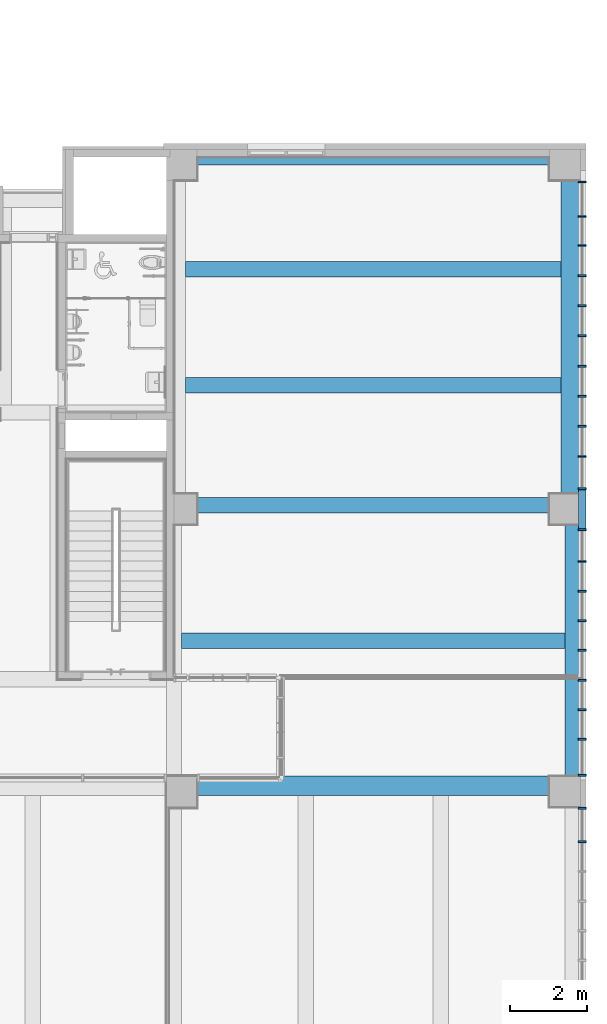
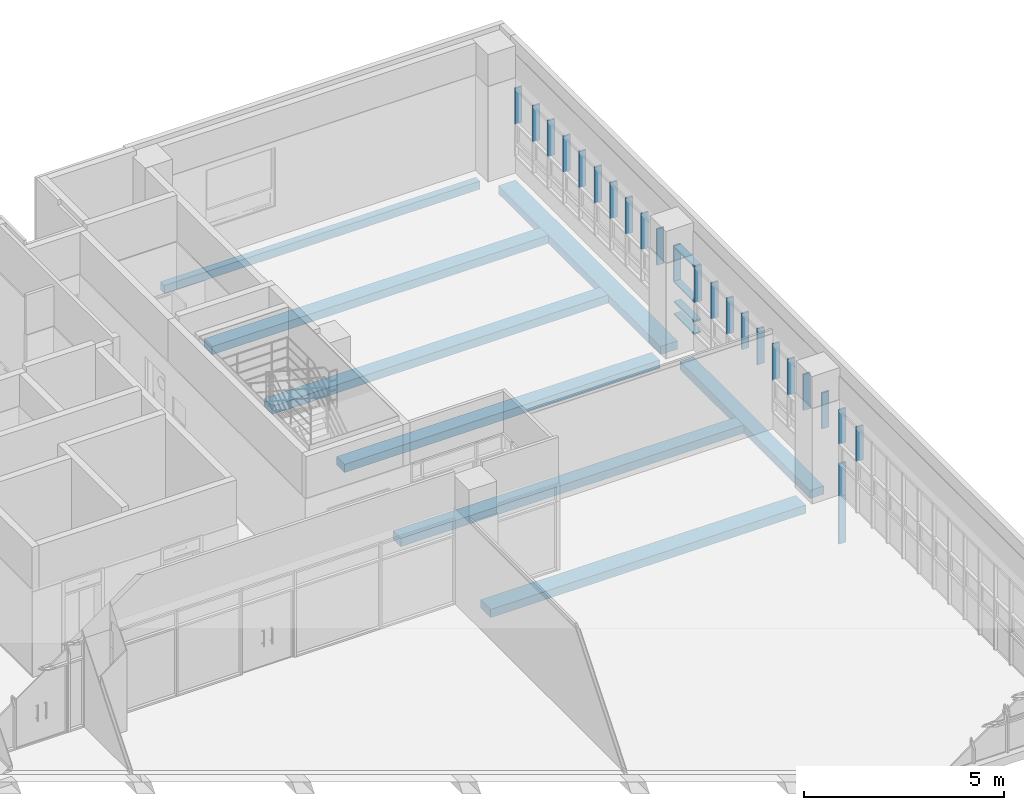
# One storey, part 8 of 81: 28 members, 8 beams, 2 elements without a shape of their own.
"""IFC2X3 building model written with IfcOpenShell, lengths in millimetres."""

from ifc_helpers import new_model, entity, si_unit, converted_unit, derived_unit, direction, frame, frame_2d, origin, origin_2d_with_axis, place, context, subcontext, project, spatial, rectangle, extrude, source, transform, mapped, material, type_object, type_shapes, element, aggregate, save


model = new_model("IFC2X3")

# Units and contexts
model_context = context("Model", 3, precision=0.01, world=origin(), true_north=direction((6.123031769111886e-17, 1.0)))
body_context = subcontext(model_context, "Body", "Model", "MODEL_VIEW")
ifc_project = project(units=[si_unit("LENGTHUNIT", "METRE", prefix="MILLI"), si_unit("AREAUNIT", "SQUARE_METRE"), si_unit("VOLUMEUNIT", "CUBIC_METRE"), converted_unit("PLANEANGLEUNIT", "DEGREE", entity("IfcRatioMeasure", 0.017453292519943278), si_unit("PLANEANGLEUNIT", "RADIAN"), dimensions=[0, 0, 0, 0, 0, 0, 0]), si_unit("MASSUNIT", "GRAM", prefix="KILO"), derived_unit("MASSDENSITYUNIT", [(si_unit("MASSUNIT", "GRAM", prefix="KILO"), 1), (si_unit("LENGTHUNIT", "METRE"), -3)]), derived_unit("MOMENTOFINERTIAUNIT", [(si_unit("LENGTHUNIT", "METRE"), 4)]), si_unit("TIMEUNIT", "SECOND"), si_unit("FREQUENCYUNIT", "HERTZ"), si_unit("THERMODYNAMICTEMPERATUREUNIT", "DEGREE_CELSIUS"), derived_unit("THERMALTRANSMITTANCEUNIT", [(si_unit("MASSUNIT", "GRAM", prefix="KILO"), 1), (si_unit("THERMODYNAMICTEMPERATUREUNIT", "KELVIN"), -1), (si_unit("TIMEUNIT", "SECOND"), -3)]), derived_unit("VOLUMETRICFLOWRATEUNIT", [(si_unit("LENGTHUNIT", "METRE"), 3), (si_unit("TIMEUNIT", "SECOND"), -1)]), derived_unit("MASSFLOWRATEUNIT", [(si_unit("MASSUNIT", "GRAM", prefix="KILO"), 1), (si_unit("TIMEUNIT", "SECOND"), -1)]), derived_unit("ROTATIONALFREQUENCYUNIT", [(si_unit("TIMEUNIT", "SECOND"), -1)]), si_unit("ELECTRICCURRENTUNIT", "AMPERE"), si_unit("ELECTRICVOLTAGEUNIT", "VOLT"), si_unit("POWERUNIT", "WATT"), si_unit("FORCEUNIT", "NEWTON", prefix="KILO"), si_unit("ILLUMINANCEUNIT", "LUX"), si_unit("LUMINOUSFLUXUNIT", "LUMEN"), si_unit("LUMINOUSINTENSITYUNIT", "CANDELA"), derived_unit("USERDEFINED", [(si_unit("MASSUNIT", "GRAM", prefix="KILO"), -1), (si_unit("LENGTHUNIT", "METRE"), -2), (si_unit("TIMEUNIT", "SECOND"), 3), (si_unit("LUMINOUSFLUXUNIT", "LUMEN"), 1)]), derived_unit("SOUNDPOWERUNIT", [(si_unit("MASSUNIT", "GRAM", prefix="KILO"), 1), (si_unit("LENGTHUNIT", "METRE"), 2), (si_unit("TIMEUNIT", "SECOND"), -3)]), derived_unit("SOUNDPRESSUREUNIT", [(si_unit("MASSUNIT", "GRAM", prefix="KILO"), 1), (si_unit("LENGTHUNIT", "METRE"), -1), (si_unit("TIMEUNIT", "SECOND"), -2)]), derived_unit("LINEARVELOCITYUNIT", [(si_unit("LENGTHUNIT", "METRE"), 1), (si_unit("TIMEUNIT", "SECOND"), -1)]), si_unit("PRESSUREUNIT", "PASCAL"), derived_unit("USERDEFINED", [(si_unit("LENGTHUNIT", "METRE"), -2), (si_unit("MASSUNIT", "GRAM", prefix="KILO"), 1), (si_unit("TIMEUNIT", "SECOND"), -2)]), derived_unit("LINEARFORCEUNIT", [(si_unit("MASSUNIT", "GRAM", prefix="KILO"), 1), (si_unit("LENGTHUNIT", "METRE"), 1), (si_unit("TIMEUNIT", "SECOND"), -2), (si_unit("LENGTHUNIT", "METRE"), -1)]), derived_unit("PLANARFORCEUNIT", [(si_unit("MASSUNIT", "GRAM", prefix="KILO"), 1), (si_unit("LENGTHUNIT", "METRE"), 1), (si_unit("TIMEUNIT", "SECOND"), -2), (si_unit("LENGTHUNIT", "METRE"), -2)])], contexts=[model_context])

# Site, building, storey
site_placement = place(None, frame((-14167.972527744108, -657.2125860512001, 0.0)))
site = spatial("IfcSite", under=ifc_project, at=site_placement, Name="Default", CompositionType="ELEMENT")
building_placement = place(site_placement, origin())
building = spatial("IfcBuilding", under=site, at=building_placement, Name="Sample Building", CompositionType="ELEMENT")
storey_placement = place(building_placement, frame((0.0, 0.0, 13400.0)))
storey = spatial("IfcBuildingStorey", under=building, at=storey_placement, Name="지상 4층", CompositionType="ELEMENT", Elevation=13400.00000000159)

# Curtain wall, members
curtain_wall_type = type_object("IfcCurtainWallType", Name="커튼월:CW112-스테인리스 스틸 커튼월", PredefinedType="NOTDEFINED")
curtain_wall_1_placement = place(storey_placement, frame((0.0, 0.0, -13400.0)))
curtain_wall_1 = element("IfcCurtainWall", 1, at=curtain_wall_1_placement, inside=storey, type_object=curtain_wall_type, Name="커튼월:CW112-스테인리스 스틸 커튼월", ObjectType="커튼월:CW112-스테인리스 스틸 커튼월")
ifc_material_1 = material(Name="<Unnamed>")
member_type_1 = type_object("IfcMemberType", Name="직사각형 멀리언:CW200-직사각형 멀리언 50x200mm", PredefinedType="MULLION", material=ifc_material_1)
shared_shape_1 = source(origin(), body_context, "Body", "SweptSolid", [
    extrude(rectangle(XDim=200.0, YDim=50.0, at=origin_2d_with_axis()), frame((-25.0, 0.0, -1000.0), z_axis=(0.0, 0.0, 1.0), x_axis=(0.0, -1.0, 0.0)), (0.0, 0.0, 1.0), 1000.0000000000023),
])
type_shapes(member_type_1, [shared_shape_1])
member_1_placement = place(curtain_wall_1_placement, frame((51517.963828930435, 20456.71229514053, 14000.0), z_axis=(0.0, 1.0, 0.0), x_axis=(0.0, 0.0, -1.0)))
member_1 = element("IfcMember", 2, at=member_1_placement, type_object=member_type_1, material=ifc_material_1, Name="직사각형 멀리언:CW200-직사각형 멀리언 50x200mm", ObjectType="직사각형 멀리언:CW200-직사각형 멀리언 50x200mm", context=body_context, shape_type="MappedRepresentation", body=[
    mapped(shared_shape_1, transform((0.0, 0.0, 0.0), scale=1.0)),
])
member_type_2 = type_object("IfcMemberType", Name="직사각형 멀리언:CW200-직사각형 멀리언 50x200mm", PredefinedType="MULLION", material=ifc_material_1)
shared_shape_2 = source(origin(), body_context, "Body", "SweptSolid", [
    extrude(rectangle(XDim=200.0, YDim=50.0, at=origin_2d_with_axis()), frame((0.0, 0.0, -1000.0), z_axis=(0.0, 0.0, 1.0), x_axis=(0.0, -1.0, 0.0)), (0.0, 0.0, 1.0), 1000.0000000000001),
])
type_shapes(member_type_2, [shared_shape_2])
member_2_placement = place(curtain_wall_1_placement, frame((51517.963828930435, 19456.71229514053, 14400.0), z_axis=(0.0, -1.0, 0.0), x_axis=(0.0, 0.0, 1.0)))
member_2 = element("IfcMember", 3, at=member_2_placement, type_object=member_type_2, material=ifc_material_1, Name="직사각형 멀리언:CW200-직사각형 멀리언 50x200mm", ObjectType="직사각형 멀리언:CW200-직사각형 멀리언 50x200mm", context=body_context, shape_type="MappedRepresentation", body=[
    mapped(shared_shape_2, transform((0.0, 0.0, 0.0), scale=1.0)),
])
member_3_placement = place(curtain_wall_1_placement, frame((51517.963828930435, 19456.712295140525, 15000.0), z_axis=(0.0, -1.0, 0.0), x_axis=(0.0, 0.0, 1.0)))
member_3 = element("IfcMember", 4, at=member_3_placement, type_object=member_type_2, material=ifc_material_1, Name="직사각형 멀리언:CW200-직사각형 멀리언 50x200mm", ObjectType="직사각형 멀리언:CW200-직사각형 멀리언 50x200mm", context=body_context, shape_type="MappedRepresentation", body=[
    mapped(shared_shape_2, transform((0.0, 0.0, 0.0), scale=1.0)),
])
member_type_3 = type_object("IfcMemberType", Name="직사각형 멀리언:CW200-직사각형 멀리언 50x200mm", PredefinedType="MULLION", material=ifc_material_1)
shared_shape_3 = source(origin(), body_context, "Body", "SweptSolid", [
    extrude(rectangle(XDim=200.0, YDim=50.0, at=origin_2d_with_axis()), frame((-25.0, 0.0, -1000.0), z_axis=(0.0, 0.0, 1.0), x_axis=(0.0, -1.0, 0.0)), (0.0, 0.0, 1.0), 1000.0000000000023),
])
type_shapes(member_type_3, [shared_shape_3])
member_4_placement = place(curtain_wall_1_placement, frame((51517.963828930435, 19456.712295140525, 16100.0), z_axis=(0.0, -1.0, 0.0), x_axis=(0.0, 0.0, 1.0)))
member_4 = element("IfcMember", 5, at=member_4_placement, type_object=member_type_3, material=ifc_material_1, Name="직사각형 멀리언:CW200-직사각형 멀리언 50x200mm", ObjectType="직사각형 멀리언:CW200-직사각형 멀리언 50x200mm", context=body_context, shape_type="MappedRepresentation", body=[
    mapped(shared_shape_3, transform((0.0, 0.0, 0.0), scale=1.0)),
])

curtain_wall_2_placement = place(storey_placement, frame((0.0, 0.0, -13400.0)))
curtain_wall_2 = element("IfcCurtainWall", 6, at=curtain_wall_2_placement, inside=storey, type_object=curtain_wall_type, Name="커튼월:CW112-스테인리스 스틸 커튼월", ObjectType="커튼월:CW112-스테인리스 스틸 커튼월")
member_type_4 = type_object("IfcMemberType", Name="직사각형 멀리언:CW200-직사각형 멀리언 50x200mm", PredefinedType="MULLION", material=ifc_material_1)
shared_shape_4 = source(origin(), body_context, "Body", "SweptSolid", [
    extrude(rectangle(XDim=200.0, YDim=50.0, at=origin_2d_with_axis()), frame((-25.0, 0.0, -1050.0), z_axis=(0.0, 0.0, 1.0), x_axis=(0.0, -1.0, 0.0)), (0.0, 0.0, 1.0), 1050.0000000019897),
])
type_shapes(member_type_4, [shared_shape_4])
member_5_placement = place(curtain_wall_2_placement, frame((51517.96382893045, 12257.177624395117, 16100.0), z_axis=(0.0, 0.0, 1.0), x_axis=(0.0, 1.0, 0.0)))
member_5 = element("IfcMember", 7, at=member_5_placement, type_object=member_type_4, material=ifc_material_1, Name="직사각형 멀리언:CW200-직사각형 멀리언 50x200mm", ObjectType="직사각형 멀리언:CW200-직사각형 멀리언 50x200mm", context=body_context, shape_type="MappedRepresentation", body=[
    mapped(shared_shape_4, transform((0.0, 0.0, 0.0), scale=1.0)),
])
member_type_5 = type_object("IfcMemberType", Name="직사각형 멀리언:CW200-직사각형 멀리언 50x200mm", PredefinedType="MULLION", material=ifc_material_1)
shared_shape_5 = source(origin(), body_context, "Body", "SweptSolid", [
    extrude(rectangle(XDim=200.0, YDim=50.0, at=origin_2d_with_axis()), frame((-25.0, 0.0, -1000.0), z_axis=(0.0, 0.0, 1.0), x_axis=(0.0, -1.0, 0.0)), (0.0, 0.0, 1.0), 999.999999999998),
])
type_shapes(member_type_5, [shared_shape_5])
member_6_placement = place(curtain_wall_2_placement, frame((51517.96382893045, 12257.177624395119, 14450.0), z_axis=(0.0, 0.0, 1.0), x_axis=(0.0, 1.0, 0.0)))
member_6 = element("IfcMember", 8, at=member_6_placement, type_object=member_type_5, material=ifc_material_1, Name="직사각형 멀리언:CW200-직사각형 멀리언 50x200mm", ObjectType="직사각형 멀리언:CW200-직사각형 멀리언 50x200mm", context=body_context, shape_type="MappedRepresentation", body=[
    mapped(shared_shape_5, transform((0.0, 0.0, 0.0), scale=1.0)),
])
member_type_6 = type_object("IfcMemberType", Name="직사각형 멀리언:CW200-직사각형 멀리언 50x200mm", PredefinedType="MULLION", material=ifc_material_1)
shared_shape_6 = source(origin(), body_context, "Body", "SweptSolid", [
    extrude(rectangle(XDim=200.0, YDim=50.0, at=origin_2d_with_axis()), frame((-25.0, 0.0, -1450.0), z_axis=(0.0, 0.0, 1.0), x_axis=(0.0, -1.0, 0.0)), (0.0, 0.0, 1.0), 1449.9999999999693),
])
type_shapes(member_type_6, [shared_shape_6])
member_7_placement = place(curtain_wall_2_placement, frame((51517.96382893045, 12257.177624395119, 13450.0), z_axis=(0.0, 0.0, 1.0), x_axis=(0.0, 1.0, 0.0)))
member_7 = element("IfcMember", 9, at=member_7_placement, type_object=member_type_6, material=ifc_material_1, Name="직사각형 멀리언:CW200-직사각형 멀리언 50x200mm", ObjectType="직사각형 멀리언:CW200-직사각형 멀리언 50x200mm", context=body_context, shape_type="MappedRepresentation", body=[
    mapped(shared_shape_6, transform((0.0, 0.0, 0.0), scale=1.0)),
])
member_type_7 = type_object("IfcMemberType", Name="직사각형 멀리언:CW200-직사각형 멀리언 50x200mm", PredefinedType="MULLION", material=ifc_material_1)
shared_shape_7 = source(origin(), body_context, "Body", "SweptSolid", [
    extrude(rectangle(XDim=200.0, YDim=50.0, at=origin_2d_with_axis()), frame((0.0, 0.0, -1050.0), z_axis=(0.0, 0.0, 1.0), x_axis=(0.0, -1.0, 0.0)), (0.0, 0.0, 1.0), 1050.0000000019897),
])
type_shapes(member_type_7, [shared_shape_7])
member_8_placement = place(curtain_wall_2_placement, frame((51517.96382893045, 11359.783036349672, 15050.0), z_axis=(0.0, 0.0, -1.0), x_axis=(0.0, -1.0, 0.0)))
member_8 = element("IfcMember", 10, at=member_8_placement, type_object=member_type_7, material=ifc_material_1, Name="직사각형 멀리언:CW200-직사각형 멀리언 50x200mm", ObjectType="직사각형 멀리언:CW200-직사각형 멀리언 50x200mm", context=body_context, shape_type="MappedRepresentation", body=[
    mapped(shared_shape_7, transform((0.0, 0.0, 0.0), scale=1.0)),
])
aggregate(curtain_wall_2, [member_5, member_6, member_7, member_8])

# Member
member_type_8 = type_object("IfcMemberType", Name="직사각형 멀리언:CW200-직사각형 멀리언 50x200mm", PredefinedType="MULLION", material=ifc_material_1)
shared_shape_8 = source(origin(), body_context, "Body", "SweptSolid", [
    extrude(rectangle(XDim=200.0, YDim=50.0, at=origin_2d_with_axis()), frame((-25.0, 0.0, -1100.0), z_axis=(0.0, 0.0, 1.0), x_axis=(0.0, -1.0, 0.0)), (0.0, 0.0, 1.0), 1100.0000000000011),
])
type_shapes(member_type_8, [shared_shape_8])
member_9_placement = place(curtain_wall_1_placement, frame((51517.96382893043, 28439.212704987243, 16100.0), z_axis=(0.0, 0.0, 1.0), x_axis=(0.0, 1.0, 0.0)))
member_9 = element("IfcMember", 11, at=member_9_placement, type_object=member_type_8, material=ifc_material_1, Name="직사각형 멀리언:CW200-직사각형 멀리언 50x200mm", ObjectType="직사각형 멀리언:CW200-직사각형 멀리언 50x200mm", context=body_context, shape_type="MappedRepresentation", body=[
    mapped(shared_shape_8, transform((0.0, 0.0, 0.0), scale=1.0)),
])

member_type_9 = type_object("IfcMemberType", Name="직사각형 멀리언:CW200-직사각형 멀리언 50x200mm", PredefinedType="MULLION", material=ifc_material_1)
shared_shape_9 = source(origin(), body_context, "Body", "SweptSolid", [
    extrude(rectangle(XDim=200.0, YDim=50.0, at=origin_2d_with_axis()), frame((-25.0, 0.0, -1100.0), z_axis=(0.0, 0.0, 1.0), x_axis=(0.0, -1.0, 0.0)), (0.0, 0.0, 1.0), 1100.0000000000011),
])
type_shapes(member_type_9, [shared_shape_9])
member_10_placement = place(curtain_wall_1_placement, frame((51517.96382893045, 13057.212383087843, 15000.0), z_axis=(0.0, 0.0, -1.0), x_axis=(0.0, -1.0, 0.0)))
member_10 = element("IfcMember", 12, at=member_10_placement, type_object=member_type_9, material=ifc_material_1, Name="직사각형 멀리언:CW200-직사각형 멀리언 50x200mm", ObjectType="직사각형 멀리언:CW200-직사각형 멀리언 50x200mm", context=body_context, shape_type="MappedRepresentation", body=[
    mapped(shared_shape_9, transform((0.0, 0.0, 0.0), scale=1.0)),
])

member_type_10 = type_object("IfcMemberType", Name="직사각형 멀리언:CW200-직사각형 멀리언 50x200mm", PredefinedType="MULLION", material=ifc_material_1)
shared_shape_10 = source(origin(), body_context, "Body", "SweptSolid", [
    extrude(rectangle(XDim=200.0, YDim=50.0, at=origin_2d_with_axis()), frame((0.0, 0.0, -1100.0), z_axis=(0.0, 0.0, 1.0), x_axis=(0.0, -1.0, 0.0)), (0.0, 0.0, 1.0), 1100.0000000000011),
])
type_shapes(member_type_10, [shared_shape_10])
member_11_placement = place(curtain_wall_1_placement, frame((51517.96382893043, 27523.712295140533, 15000.0), z_axis=(0.0, 0.0, -1.0), x_axis=(0.0, -1.0, 0.0)))
member_11 = element("IfcMember", 13, at=member_11_placement, type_object=member_type_10, material=ifc_material_1, Name="직사각형 멀리언:CW200-직사각형 멀리언 50x200mm", ObjectType="직사각형 멀리언:CW200-직사각형 멀리언 50x200mm", context=body_context, shape_type="MappedRepresentation", body=[
    mapped(shared_shape_10, transform((0.0, 0.0, 0.0), scale=1.0)),
])

member_12_placement = place(curtain_wall_1_placement, frame((51517.96382893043, 26773.712295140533, 15000.0), z_axis=(0.0, 0.0, -1.0), x_axis=(0.0, -1.0, 0.0)))
member_12 = element("IfcMember", 14, at=member_12_placement, type_object=member_type_10, material=ifc_material_1, Name="직사각형 멀리언:CW200-직사각형 멀리언 50x200mm", ObjectType="직사각형 멀리언:CW200-직사각형 멀리언 50x200mm", context=body_context, shape_type="MappedRepresentation", body=[
    mapped(shared_shape_10, transform((0.0, 0.0, 0.0), scale=1.0)),
])

member_13_placement = place(curtain_wall_1_placement, frame((51517.96382893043, 25215.712295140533, 15000.0), z_axis=(0.0, 0.0, -1.0), x_axis=(0.0, -1.0, 0.0)))
member_13 = element("IfcMember", 15, at=member_13_placement, type_object=member_type_10, material=ifc_material_1, Name="직사각형 멀리언:CW200-직사각형 멀리언 50x200mm", ObjectType="직사각형 멀리언:CW200-직사각형 멀리언 50x200mm", context=body_context, shape_type="MappedRepresentation", body=[
    mapped(shared_shape_10, transform((0.0, 0.0, 0.0), scale=1.0)),
])

member_14_placement = place(curtain_wall_1_placement, frame((51517.96382893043, 24436.712295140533, 15000.0), z_axis=(0.0, 0.0, -1.0), x_axis=(0.0, -1.0, 0.0)))
member_14 = element("IfcMember", 16, at=member_14_placement, type_object=member_type_10, material=ifc_material_1, Name="직사각형 멀리언:CW200-직사각형 멀리언 50x200mm", ObjectType="직사각형 멀리언:CW200-직사각형 멀리언 50x200mm", context=body_context, shape_type="MappedRepresentation", body=[
    mapped(shared_shape_10, transform((0.0, 0.0, 0.0), scale=1.0)),
])

member_15_placement = place(curtain_wall_1_placement, frame((51517.963828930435, 23657.71229514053, 15000.0), z_axis=(0.0, 0.0, -1.0), x_axis=(0.0, -1.0, 0.0)))
member_15 = element("IfcMember", 17, at=member_15_placement, type_object=member_type_10, material=ifc_material_1, Name="직사각형 멀리언:CW200-직사각형 멀리언 50x200mm", ObjectType="직사각형 멀리언:CW200-직사각형 멀리언 50x200mm", context=body_context, shape_type="MappedRepresentation", body=[
    mapped(shared_shape_10, transform((0.0, 0.0, 0.0), scale=1.0)),
])

member_16_placement = place(curtain_wall_1_placement, frame((51517.963828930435, 22878.71229514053, 15000.0), z_axis=(0.0, 0.0, -1.0), x_axis=(0.0, -1.0, 0.0)))
member_16 = element("IfcMember", 18, at=member_16_placement, type_object=member_type_10, material=ifc_material_1, Name="직사각형 멀리언:CW200-직사각형 멀리언 50x200mm", ObjectType="직사각형 멀리언:CW200-직사각형 멀리언 50x200mm", context=body_context, shape_type="MappedRepresentation", body=[
    mapped(shared_shape_10, transform((0.0, 0.0, 0.0), scale=1.0)),
])

member_17_placement = place(curtain_wall_1_placement, frame((51517.963828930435, 22099.71229514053, 15000.0), z_axis=(0.0, 0.0, -1.0), x_axis=(0.0, -1.0, 0.0)))
member_17 = element("IfcMember", 19, at=member_17_placement, type_object=member_type_10, material=ifc_material_1, Name="직사각형 멀리언:CW200-직사각형 멀리언 50x200mm", ObjectType="직사각형 멀리언:CW200-직사각형 멀리언 50x200mm", context=body_context, shape_type="MappedRepresentation", body=[
    mapped(shared_shape_10, transform((0.0, 0.0, 0.0), scale=1.0)),
])

member_18_placement = place(curtain_wall_1_placement, frame((51517.963828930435, 21320.71229514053, 15000.0), z_axis=(0.0, 0.0, -1.0), x_axis=(0.0, -1.0, 0.0)))
member_18 = element("IfcMember", 20, at=member_18_placement, type_object=member_type_10, material=ifc_material_1, Name="직사각형 멀리언:CW200-직사각형 멀리언 50x200mm", ObjectType="직사각형 멀리언:CW200-직사각형 멀리언 50x200mm", context=body_context, shape_type="MappedRepresentation", body=[
    mapped(shared_shape_10, transform((0.0, 0.0, 0.0), scale=1.0)),
])

member_19_placement = place(curtain_wall_1_placement, frame((51517.963828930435, 20481.71229514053, 15000.0), z_axis=(0.0, 0.0, -1.0), x_axis=(0.0, -1.0, 0.0)))
member_19 = element("IfcMember", 21, at=member_19_placement, type_object=member_type_10, material=ifc_material_1, Name="직사각형 멀리언:CW200-직사각형 멀리언 50x200mm", ObjectType="직사각형 멀리언:CW200-직사각형 멀리언 50x200mm", context=body_context, shape_type="MappedRepresentation", body=[
    mapped(shared_shape_10, transform((0.0, 0.0, 0.0), scale=1.0)),
])

member_20_placement = place(curtain_wall_1_placement, frame((51517.96382893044, 17839.71229514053, 15000.0), z_axis=(0.0, 0.0, -1.0), x_axis=(0.0, -1.0, 0.0)))
member_20 = element("IfcMember", 22, at=member_20_placement, type_object=member_type_10, material=ifc_material_1, Name="직사각형 멀리언:CW200-직사각형 멀리언 50x200mm", ObjectType="직사각형 멀리언:CW200-직사각형 멀리언 50x200mm", context=body_context, shape_type="MappedRepresentation", body=[
    mapped(shared_shape_10, transform((0.0, 0.0, 0.0), scale=1.0)),
])

member_21_placement = place(curtain_wall_1_placement, frame((51517.963828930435, 19431.712295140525, 15000.0), z_axis=(0.0, 0.0, -1.0), x_axis=(0.0, -1.0, 0.0)))
member_21 = element("IfcMember", 23, at=member_21_placement, type_object=member_type_10, material=ifc_material_1, Name="직사각형 멀리언:CW200-직사각형 멀리언 50x200mm", ObjectType="직사각형 멀리언:CW200-직사각형 멀리언 50x200mm", context=body_context, shape_type="MappedRepresentation", body=[
    mapped(shared_shape_10, transform((0.0, 0.0, 0.0), scale=1.0)),
])

member_22_placement = place(curtain_wall_1_placement, frame((51517.96382893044, 17073.71229514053, 15000.0), z_axis=(0.0, 0.0, -1.0), x_axis=(0.0, -1.0, 0.0)))
member_22 = element("IfcMember", 24, at=member_22_placement, type_object=member_type_10, material=ifc_material_1, Name="직사각형 멀리언:CW200-직사각형 멀리언 50x200mm", ObjectType="직사각형 멀리언:CW200-직사각형 멀리언 50x200mm", context=body_context, shape_type="MappedRepresentation", body=[
    mapped(shared_shape_10, transform((0.0, 0.0, 0.0), scale=1.0)),
])

member_23_placement = place(curtain_wall_1_placement, frame((51517.96382893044, 14775.71229514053, 15000.0), z_axis=(0.0, 0.0, -1.0), x_axis=(0.0, -1.0, 0.0)))
member_23 = element("IfcMember", 25, at=member_23_placement, type_object=member_type_10, material=ifc_material_1, Name="직사각형 멀리언:CW200-직사각형 멀리언 50x200mm", ObjectType="직사각형 멀리언:CW200-직사각형 멀리언 50x200mm", context=body_context, shape_type="MappedRepresentation", body=[
    mapped(shared_shape_10, transform((0.0, 0.0, 0.0), scale=1.0)),
])

member_24_placement = place(curtain_wall_1_placement, frame((51517.96382893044, 14009.71229514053, 15000.0), z_axis=(0.0, 0.0, -1.0), x_axis=(0.0, -1.0, 0.0)))
member_24 = element("IfcMember", 26, at=member_24_placement, type_object=member_type_10, material=ifc_material_1, Name="직사각형 멀리언:CW200-직사각형 멀리언 50x200mm", ObjectType="직사각형 멀리언:CW200-직사각형 멀리언 50x200mm", context=body_context, shape_type="MappedRepresentation", body=[
    mapped(shared_shape_10, transform((0.0, 0.0, 0.0), scale=1.0)),
])

member_25_placement = place(curtain_wall_1_placement, frame((51517.96382893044, 15541.71229514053, 15000.0), z_axis=(0.0, 0.0, -1.0), x_axis=(0.0, -1.0, 0.0)))
member_25 = element("IfcMember", 27, at=member_25_placement, type_object=member_type_10, material=ifc_material_1, Name="직사각형 멀리언:CW200-직사각형 멀리언 50x200mm", ObjectType="직사각형 멀리언:CW200-직사각형 멀리언 50x200mm", context=body_context, shape_type="MappedRepresentation", body=[
    mapped(shared_shape_10, transform((0.0, 0.0, 0.0), scale=1.0)),
])

member_26_placement = place(curtain_wall_1_placement, frame((51517.96382893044, 16307.712295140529, 15000.0), z_axis=(0.0, 0.0, -1.0), x_axis=(0.0, -1.0, 0.0)))
member_26 = element("IfcMember", 28, at=member_26_placement, type_object=member_type_10, material=ifc_material_1, Name="직사각형 멀리언:CW200-직사각형 멀리언 50x200mm", ObjectType="직사각형 멀리언:CW200-직사각형 멀리언 50x200mm", context=body_context, shape_type="MappedRepresentation", body=[
    mapped(shared_shape_10, transform((0.0, 0.0, 0.0), scale=1.0)),
])

member_type_11 = type_object("IfcMemberType", Name="직사각형 멀리언:CW200-직사각형 멀리언 50x200mm", PredefinedType="MULLION", material=ifc_material_1)
shared_shape_11 = source(origin(), body_context, "Body", "SweptSolid", [
    extrude(rectangle(XDim=200.0, YDim=50.0, at=origin_2d_with_axis()), frame((0.0, 0.0, -1100.0), z_axis=(0.0, 0.0, 1.0), x_axis=(0.0, -1.0, 0.0)), (0.0, 0.0, 1.0), 1100.0000000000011),
])
type_shapes(member_type_11, [shared_shape_11])
member_27_placement = place(curtain_wall_1_placement, frame((51517.96382893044, 18605.712295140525, 15000.0), z_axis=(0.0, 0.0, -1.0), x_axis=(0.0, -1.0, 0.0)))
member_27 = element("IfcMember", 29, at=member_27_placement, type_object=member_type_11, material=ifc_material_1, Name="직사각형 멀리언:CW200-직사각형 멀리언 50x200mm", ObjectType="직사각형 멀리언:CW200-직사각형 멀리언 50x200mm", context=body_context, shape_type="MappedRepresentation", body=[
    mapped(shared_shape_11, transform((0.0, 0.0, 0.0), scale=1.0)),
])

member_28_placement = place(curtain_wall_1_placement, frame((51517.96382893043, 25994.712295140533, 15000.0), z_axis=(0.0, 0.0, -1.0), x_axis=(0.0, -1.0, 0.0)))
member_28 = element("IfcMember", 30, at=member_28_placement, type_object=member_type_11, material=ifc_material_1, Name="직사각형 멀리언:CW200-직사각형 멀리언 50x200mm", ObjectType="직사각형 멀리언:CW200-직사각형 멀리언 50x200mm", context=body_context, shape_type="MappedRepresentation", body=[
    mapped(shared_shape_11, transform((0.0, 0.0, 0.0), scale=1.0)),
])

aggregate(curtain_wall_1, [member_9, member_10, member_11, member_12, member_13, member_14, member_15, member_16, member_17, member_18, member_1, member_2, member_3, member_19, member_20, member_4, member_21, member_22, member_23, member_24, member_25, member_26, member_27, member_28])

# Beams
ifc_material_2 = material(Name="KBIMS-콘크리트")
beam_type_1 = type_object("IfcBeamType", Name="BM111-철근콘크리트구조 보:BM110-철근 콘크리트구조 보_500 x 400_2-10G9", PredefinedType="NOTDEFINED")
beam_1_placement = place(storey_placement, frame((51267.955221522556, 12807.212551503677, 0.0), z_axis=(0.0, 0.0, 1.0), x_axis=(-1.0, 0.0, 0.0)))
element("IfcBeam", 31, at=beam_1_placement, inside=storey, type_object=beam_type_1, material=ifc_material_2, Name="BM111-철근콘크리트구조 보:BM110-철근 콘크리트구조 보_500 x 400_2-10G9", ObjectType="BM111-철근콘크리트구조 보:BM110-철근 콘크리트구조 보_500 x 400_2-10G9", context=body_context, shape_type="SweptSolid", body=[
    extrude(rectangle(XDim=250.00000000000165, YDim=500.0000000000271, at=frame_2d((-1.0800249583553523e-12, -1.8417267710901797e-11), x_axis=(1.0, 0.0))), frame((599.99138341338, 0.0, -275.0), z_axis=(1.0, 0.0, 0.0), x_axis=(0.0, 0.0, -1.0)), (0.0, 0.0, 1.0), 9100.008696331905),
])
beam_type_2 = type_object("IfcBeamType", Name="BM111-철근콘크리트구조 보:BM110-철근 콘크리트구조 보_400 x 400_2-10G1", PredefinedType="NOTDEFINED")
beam_2_placement = place(storey_placement, frame((41017.9726074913, 20057.21256687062, 0.0)))
element("IfcBeam", 32, at=beam_2_placement, inside=storey, type_object=beam_type_2, material=ifc_material_2, Name="BM111-철근콘크리트구조 보:BM110-철근 콘크리트구조 보_400 x 400_2-10G1", ObjectType="BM111-철근콘크리트구조 보:BM110-철근 콘크리트구조 보_400 x 400_2-10G1", context=body_context, shape_type="SweptSolid", body=[
    extrude(rectangle(XDim=250.00000000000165, YDim=400.00000000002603, at=frame_2d((-1.0800249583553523e-12, -1.9483081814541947e-11), x_axis=(1.0, 0.0))), frame((549.9825145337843, 0.0, -275.0), z_axis=(1.0, 0.0, 0.0), x_axis=(0.0, 0.0, -1.0)), (0.0, 0.0, 1.0), 9100.00874351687),
])
beam_3_placement = place(storey_placement, frame((41017.97260749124, 29057.212617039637, 0.0)))
element("IfcBeam", 33, at=beam_3_placement, inside=storey, type_object=beam_type_2, material=ifc_material_2, Name="BM111-철근콘크리트구조 보:BM110-철근 콘크리트구조 보_400 x 400_2-10G1", ObjectType="BM111-철근콘크리트구조 보:BM110-철근 콘크리트구조 보_400 x 400_2-10G1", context=body_context, shape_type="SweptSolid", body=[
    extrude(rectangle(XDim=250.00000000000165, YDim=199.99967810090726, at=frame_2d((-1.0800249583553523e-12, -2.1657342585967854e-11), x_axis=(1.0, 0.0))), frame((549.9825342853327, -100.0001609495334, -275.0), z_axis=(1.0, 0.0, 0.0), x_axis=(0.0, 0.0, -1.0)), (0.0, 0.0, 1.0), 9100.008723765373),
])
beam_type_3 = type_object("IfcBeamType", Name="BM111-철근콘크리트구조 보:BM110-철근 콘크리트구조 보_400 x 400_2-10G4", PredefinedType="BEAM", material=ifc_material_2)
beam_4_placement = place(storey_placement, frame((51267.955221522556, 12807.212551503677, 0.0), z_axis=(0.0, 0.0, 1.0), x_axis=(0.0, 1.0, 0.0)))
element("IfcBeam", 34, at=beam_4_placement, inside=storey, type_object=beam_type_3, material=ifc_material_2, Name="BM111-철근콘크리트구조 보:BM110-철근 콘크리트구조 보_400 x 400_2-10G4", ObjectType="BM111-철근콘크리트구조 보:BM110-철근 콘크리트구조 보_400 x 400_2-10G4", context=body_context, shape_type="SweptSolid", body=[
    extrude(rectangle(XDim=250.00000000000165, YDim=400.0000000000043, at=frame_2d((-1.0800249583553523e-12, 4.334310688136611e-12), x_axis=(1.0, 0.0))), frame((250.0004874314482, 0.0, -275.0), z_axis=(1.0, 0.0, 0.0), x_axis=(0.0, 0.0, -1.0)), (0.0, 0.0, 1.0), 6499.999578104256),
])
beam_type_4 = type_object("IfcBeamType", Name="BM111-철근콘크리트구조 보:BM110-철근 콘크리트구조 보_400 x 400_2-10B1", PredefinedType="NOTDEFINED")
beam_5_placement = place(storey_placement, frame((40967.955141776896, 16557.21245257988, 0.0)))
element("IfcBeam", 35, at=beam_5_placement, inside=storey, type_object=beam_type_4, material=ifc_material_2, Name="BM111-철근콘크리트구조 보:BM110-철근 콘크리트구조 보_400 x 400_2-10B1", ObjectType="BM111-철근콘크리트구조 보:BM110-철근 콘크리트구조 보_400 x 400_2-10B1", context=body_context, shape_type="SweptSolid", body=[
    extrude(rectangle(XDim=250.00000000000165, YDim=400.0000000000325, at=frame_2d((-1.0800249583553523e-12, -2.05773176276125e-11), x_axis=(1.0, 0.0))), frame((200.0, 0.0, -275.0), z_axis=(1.0, 0.0, 0.0), x_axis=(0.0, 0.0, -1.0)), (0.0, 0.0, 1.0), 9900.00007974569),
])
beam_6_placement = place(storey_placement, frame((41017.972607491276, 23157.2124262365, 0.0)))
element("IfcBeam", 36, at=beam_6_placement, inside=storey, type_object=beam_type_4, material=ifc_material_2, Name="BM111-철근콘크리트구조 보:BM110-철근 콘크리트구조 보_400 x 400_2-10B1", ObjectType="BM111-철근콘크리트구조 보:BM110-철근 콘크리트구조 보_400 x 400_2-10B1", context=body_context, shape_type="SweptSolid", body=[
    extrude(rectangle(XDim=250.00000000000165, YDim=400.0000000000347, at=frame_2d((-1.0800249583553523e-12, -2.3817392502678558e-11), x_axis=(1.0, 0.0))), frame((250.0, 0.0, -275.0), z_axis=(1.0, 0.0, 0.0), x_axis=(0.0, 0.0, -1.0)), (0.0, 0.0, 1.0), 9699.98253428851),
])
beam_7_placement = place(storey_placement, frame((41017.97260749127, 26157.212426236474, 0.0)))
element("IfcBeam", 37, at=beam_7_placement, inside=storey, type_object=beam_type_4, material=ifc_material_2, Name="BM111-철근콘크리트구조 보:BM110-철근 콘크리트구조 보_400 x 400_2-10B1", ObjectType="BM111-철근콘크리트구조 보:BM110-철근 콘크리트구조 보_400 x 400_2-10B1", context=body_context, shape_type="SweptSolid", body=[
    extrude(rectangle(XDim=250.00000000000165, YDim=400.00000000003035, at=frame_2d((-1.0800249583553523e-12, -1.7323031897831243e-11), x_axis=(1.0, 0.0))), frame((250.0, 0.0, -275.0), z_axis=(1.0, 0.0, 0.0), x_axis=(0.0, 0.0, -1.0)), (0.0, 0.0, 1.0), 9699.982534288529),
])
beam_type_5 = type_object("IfcBeamType", Name="BM111-철근콘크리트구조 보:BM110-철근 콘크리트구조 보_500 x 400_2-10G5", PredefinedType="NOTDEFINED")
beam_8_placement = place(storey_placement, frame((51217.955141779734, 28457.212620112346, 0.0), z_axis=(0.0, 0.0, 1.0), x_axis=(0.0, -1.0, 0.0)))
element("IfcBeam", 38, at=beam_8_placement, inside=storey, type_object=beam_type_5, material=ifc_material_2, Name="BM111-철근콘크리트구조 보:BM110-철근 콘크리트구조 보_500 x 400_2-10G5", ObjectType="BM111-철근콘크리트구조 보:BM110-철근 콘크리트구조 보_500 x 400_2-10G5", context=body_context, shape_type="SweptSolid", body=[
    extrude(rectangle(XDim=250.00000000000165, YDim=500.00000000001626, at=frame_2d((-1.0800249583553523e-12, -1.3002932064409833e-11), x_axis=(1.0, 0.0))), frame((0.0, 0.0, -275.0), z_axis=(1.0, 0.0, 0.0), x_axis=(0.0, 0.0, -1.0)), (0.0, 0.0, 1.0), 8100.000003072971),
])

save(model, "model.ifc")
